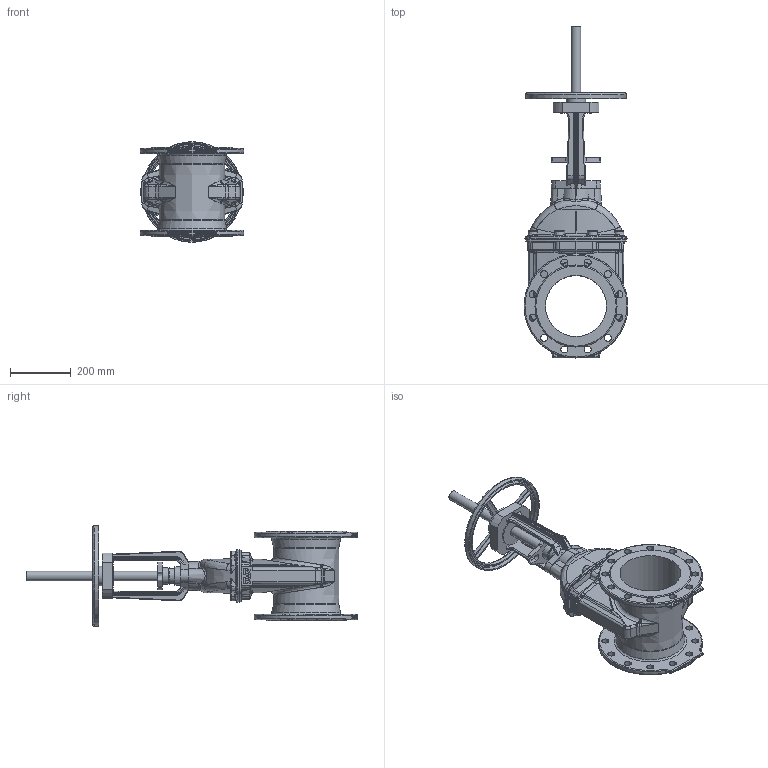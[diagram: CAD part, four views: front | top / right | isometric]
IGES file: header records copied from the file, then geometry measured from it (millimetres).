
Start section: SolidWorks IGES file using analytic representation for surfaces
Global section: file name: \\avksan2\techshare\PBM outline export from Enovia\O_21_34_DN200_41XXXXX open_AA0.igs; native system: SolidWorks 2012; preprocessor: SolidWorks 2012; author: pbm; date: 200212.102322; units: millimetre
Bounding box: 340 x 1088.37 x 329.91 mm (x, y, z)
Surface area: 1238581.8 mm2 (no closed solid volume)
Topology: 0 solids, 0 shells, 856 faces, 4458 edges, 4330 vertices
Faces by surface type: revolution 436, bspline 420
